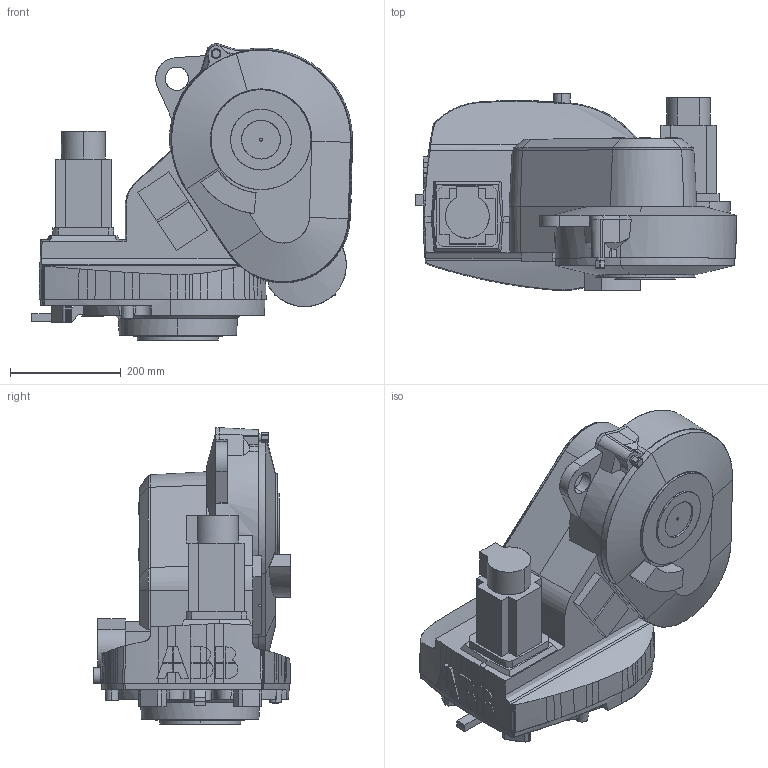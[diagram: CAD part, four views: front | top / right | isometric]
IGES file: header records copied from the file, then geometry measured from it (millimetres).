
Start section: SolidWorks IGES file using analytic representation for surfaces
Global section: file name: C:\Users\CNYUGAO6\Desktop\web model\IRB1660ID_4-155_IRC5_rev0_LINK1.IGS; native system: SolidWorks 2014; preprocessor: SolidWorks 2014; author: CNYUGAO6; date: 160905.132111; units: millimetre
Bounding box: 579.25 x 355.5 x 535.06 mm (x, y, z)
Surface area: 1129948.9 mm2 (no closed solid volume)
Topology: 0 solids, 0 shells, 632 faces, 6906 edges, 6906 vertices
Faces by surface type: bspline 608, revolution 24
